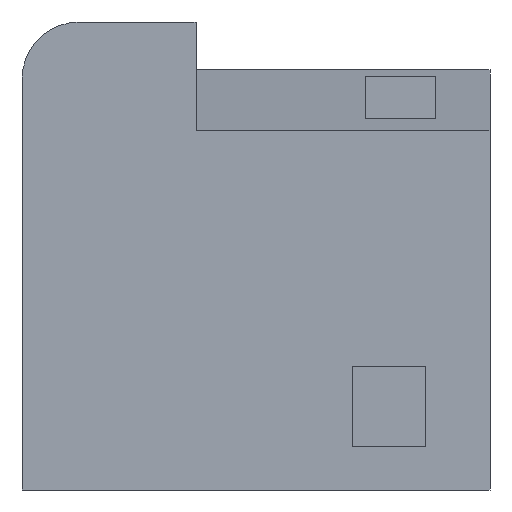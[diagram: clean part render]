
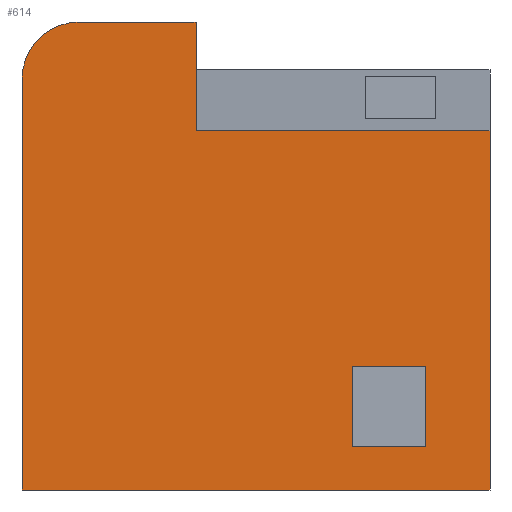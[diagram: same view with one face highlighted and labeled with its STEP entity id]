
A CAD part, left-side view. The second image highlights one B-rep face of the part: STEP entity #614.
In plain terms, the highlighted planar face has unit normal (-1, 0, 0).
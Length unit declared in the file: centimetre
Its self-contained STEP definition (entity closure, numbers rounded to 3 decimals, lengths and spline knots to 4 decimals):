
#8 = VECTOR ( 'NONE', #563, 100. ) ;
#20 = LINE ( 'NONE', #219, #681 ) ;
#24 = ORIENTED_EDGE ( 'NONE', *, *, #926, .F. ) ;
#47 = DIRECTION ( 'NONE',  ( 0., 0., -1. ) ) ;
#49 = CARTESIAN_POINT ( 'NONE',  ( 0., 137.1544, 263.7067 ) ) ;
#57 = ORIENTED_EDGE ( 'NONE', *, *, #585, .T. ) ;
#60 = AXIS2_PLACEMENT_3D ( 'NONE', #797, #145, #427 ) ;
#77 = ORIENTED_EDGE ( 'NONE', *, *, #146, .F. ) ;
#83 = DIRECTION ( 'NONE',  ( 0., -1., 0. ) ) ;
#102 = LINE ( 'NONE', #918, #790 ) ;
#104 = AXIS2_PLACEMENT_3D ( 'NONE', #473, #687, #47 ) ;
#137 = CARTESIAN_POINT ( 'NONE',  ( 0., 137.1544, 263.7067 ) ) ;
#145 = DIRECTION ( 'NONE',  ( 1., 0., 0. ) ) ;
#146 = EDGE_CURVE ( 'NONE', #944, #891, #318, .T. ) ;
#170 = LINE ( 'NONE', #545, #315 ) ;
#171 = EDGE_CURVE ( 'NONE', #695, #346, #908, .T. ) ;
#176 = CARTESIAN_POINT ( 'NONE',  ( 0., 628.1909, 767.4132 ) ) ;
#184 = LINE ( 'NONE', #338, #8 ) ;
#185 = ORIENTED_EDGE ( 'NONE', *, *, #552, .F. ) ;
#198 = LINE ( 'NONE', #626, #317 ) ;
#200 = EDGE_CURVE ( 'NONE', #749, #572, #914, .T. ) ;
#201 = LINE ( 'NONE', #137, #746 ) ;
#219 = CARTESIAN_POINT ( 'NONE',  ( 0., 1000., 1000. ) ) ;
#227 = EDGE_CURVE ( 'NONE', #346, #505, #170, .T. ) ;
#245 = CARTESIAN_POINT ( 'NONE',  ( 0., 1000., 0. ) ) ;
#247 = EDGE_CURVE ( 'NONE', #950, #749, #184, .T. ) ;
#277 = FACE_OUTER_BOUND ( 'NONE', #349, .T. ) ;
#285 = ORIENTED_EDGE ( 'NONE', *, *, #247, .F. ) ;
#315 = VECTOR ( 'NONE', #534, 100. ) ;
#316 = DIRECTION ( 'NONE',  ( 0., 0., -1. ) ) ;
#317 = VECTOR ( 'NONE', #643, 100. ) ;
#318 = LINE ( 'NONE', #176, #461 ) ;
#319 = VECTOR ( 'NONE', #566, 100. ) ;
#323 = ORIENTED_EDGE ( 'NONE', *, *, #885, .F. ) ;
#338 = CARTESIAN_POINT ( 'NONE',  ( 0., 294.7444, 92.5699 ) ) ;
#340 = CARTESIAN_POINT ( 'NONE',  ( 0., 628.1909, 767.4132 ) ) ;
#346 = VERTEX_POINT ( 'NONE', #434 ) ;
#348 = CARTESIAN_POINT ( 'NONE',  ( 0., 0., 767.4132 ) ) ;
#349 = EDGE_LOOP ( 'NONE', ( #185, #323, #77, #24, #882, #631, #57 ) ) ;
#359 = LINE ( 'NONE', #702, #319 ) ;
#360 = VERTEX_POINT ( 'NONE', #734 ) ;
#398 = DIRECTION ( 'NONE',  ( 0., 0., -1. ) ) ;
#425 = CARTESIAN_POINT ( 'NONE',  ( 0., 877.5787, 1000. ) ) ;
#427 = DIRECTION ( 'NONE',  ( 0., 0., -1. ) ) ;
#434 = CARTESIAN_POINT ( 'NONE',  ( 0., 1000., 877.5787 ) ) ;
#451 = ORIENTED_EDGE ( 'NONE', *, *, #688, .F. ) ;
#457 = DIRECTION ( 'NONE',  ( 0., -1., 0. ) ) ;
#461 = VECTOR ( 'NONE', #398, 100. ) ;
#473 = CARTESIAN_POINT ( 'NONE',  ( 0., 877.5787, 877.5787 ) ) ;
#482 = CARTESIAN_POINT ( 'NONE',  ( 0., 294.7444, 92.5699 ) ) ;
#496 = ORIENTED_EDGE ( 'NONE', *, *, #825, .F. ) ;
#503 = FACE_BOUND ( 'NONE', #778, .T. ) ;
#505 = VERTEX_POINT ( 'NONE', #245 ) ;
#526 = CARTESIAN_POINT ( 'NONE',  ( 0., 294.7444, 263.7067 ) ) ;
#534 = DIRECTION ( 'NONE',  ( 0., 0., -1. ) ) ;
#545 = CARTESIAN_POINT ( 'NONE',  ( 0., 1000., 1000. ) ) ;
#547 = CARTESIAN_POINT ( 'NONE',  ( 0., 1000., 0. ) ) ;
#552 = EDGE_CURVE ( 'NONE', #857, #360, #102, .T. ) ;
#563 = DIRECTION ( 'NONE',  ( 0., 0., -1. ) ) ;
#566 = DIRECTION ( 'NONE',  ( 0., -1., 0. ) ) ;
#572 = VERTEX_POINT ( 'NONE', #922 ) ;
#573 = DIRECTION ( 'NONE',  ( 0., 1., 0. ) ) ;
#584 = ORIENTED_EDGE ( 'NONE', *, *, #200, .F. ) ;
#585 = EDGE_CURVE ( 'NONE', #505, #360, #610, .T. ) ;
#610 = LINE ( 'NONE', #547, #923 ) ;
#614 = ADVANCED_FACE ( 'NONE', ( #503, #277 ), #870, .F. ) ;
#626 = CARTESIAN_POINT ( 'NONE',  ( 0., 137.1544, 92.5699 ) ) ;
#631 = ORIENTED_EDGE ( 'NONE', *, *, #227, .T. ) ;
#643 = DIRECTION ( 'NONE',  ( 0., 0., 1. ) ) ;
#681 = VECTOR ( 'NONE', #83, 100. ) ;
#687 = DIRECTION ( 'NONE',  ( -1., 0., 0. ) ) ;
#688 = EDGE_CURVE ( 'NONE', #780, #950, #201, .T. ) ;
#695 = VERTEX_POINT ( 'NONE', #425 ) ;
#702 = CARTESIAN_POINT ( 'NONE',  ( 0., 628.1909, 767.4132 ) ) ;
#734 = CARTESIAN_POINT ( 'NONE',  ( 0., 0., 0. ) ) ;
#746 = VECTOR ( 'NONE', #573, 100. ) ;
#749 = VERTEX_POINT ( 'NONE', #482 ) ;
#762 = DIRECTION ( 'NONE',  ( 0., -1., 0. ) ) ;
#766 = CARTESIAN_POINT ( 'NONE',  ( 0., 137.1544, 92.5699 ) ) ;
#778 = EDGE_LOOP ( 'NONE', ( #496, #584, #285, #451 ) ) ;
#780 = VERTEX_POINT ( 'NONE', #49 ) ;
#790 = VECTOR ( 'NONE', #316, 100. ) ;
#797 = CARTESIAN_POINT ( 'NONE',  ( 0., 1000., 1000. ) ) ;
#825 = EDGE_CURVE ( 'NONE', #572, #780, #198, .T. ) ;
#850 = VECTOR ( 'NONE', #457, 100. ) ;
#857 = VERTEX_POINT ( 'NONE', #348 ) ;
#870 = PLANE ( 'NONE',  #60 ) ;
#882 = ORIENTED_EDGE ( 'NONE', *, *, #171, .T. ) ;
#885 = EDGE_CURVE ( 'NONE', #891, #857, #359, .T. ) ;
#891 = VERTEX_POINT ( 'NONE', #340 ) ;
#908 = CIRCLE ( 'NONE', #104, 122.4213 ) ;
#914 = LINE ( 'NONE', #766, #850 ) ;
#918 = CARTESIAN_POINT ( 'NONE',  ( 0., 0., 1000. ) ) ;
#922 = CARTESIAN_POINT ( 'NONE',  ( 0., 137.1544, 92.5699 ) ) ;
#923 = VECTOR ( 'NONE', #762, 100. ) ;
#926 = EDGE_CURVE ( 'NONE', #695, #944, #20, .T. ) ;
#944 = VERTEX_POINT ( 'NONE', #958 ) ;
#950 = VERTEX_POINT ( 'NONE', #526 ) ;
#958 = CARTESIAN_POINT ( 'NONE',  ( 0., 628.1909, 1000. ) ) ;
